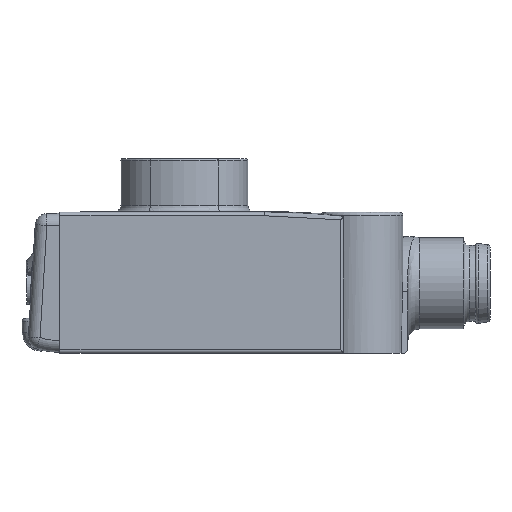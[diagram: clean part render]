
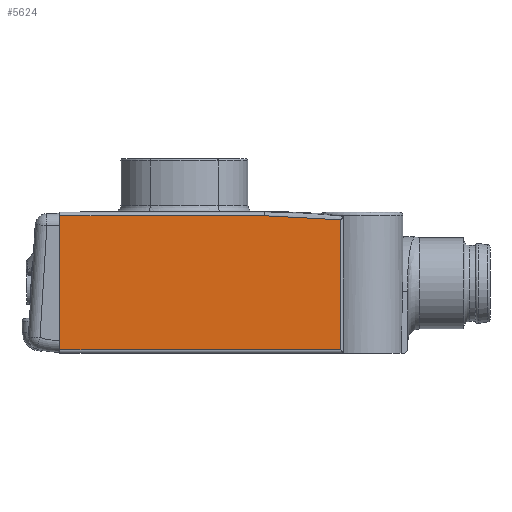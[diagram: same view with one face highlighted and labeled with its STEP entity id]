
A CAD part, left-side view. The second image highlights one B-rep face of the part: STEP entity #5624.
In plain terms, the highlighted planar face has unit normal (-1, 0, 0).
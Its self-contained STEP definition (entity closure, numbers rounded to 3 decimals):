
#1301=CARTESIAN_POINT('',(-8.04,1.779,11.45));
#1302=VERTEX_POINT('',#1301);
#1331=CARTESIAN_POINT('',(-8.04,8.33,11.8));
#1332=VERTEX_POINT('',#1331);
#1340=CARTESIAN_POINT('',(-8.04,8.33,11.8));
#1341=CARTESIAN_POINT('',(-8.04,6.142,11.8));
#1342=CARTESIAN_POINT('',(-8.04,3.953,11.691));
#1343=CARTESIAN_POINT('',(-8.04,1.779,11.45));
#1344=B_SPLINE_CURVE_WITH_KNOTS('',3,(#1340,#1341,#1342,#1343),.UNSPECIFIED.,.F.,.U.,(4,4),(1.783,2.44),.UNSPECIFIED.);
#1345=EDGE_CURVE('',#1332,#1302,#1344,.T.);
#1364=CARTESIAN_POINT('',(-8.04,25.85,11.8));
#1365=VERTEX_POINT('',#1364);
#1373=CARTESIAN_POINT('',(-8.04,25.85,11.8));
#1374=DIRECTION('',(0.0,-1.0,0.0));
#1375=VECTOR('',#1374,17.52);
#1376=LINE('',#1373,#1375);
#1377=EDGE_CURVE('',#1365,#1332,#1376,.T.);
#1744=CARTESIAN_POINT('',(-8.04,25.85,0.3));
#1745=VERTEX_POINT('',#1744);
#1753=CARTESIAN_POINT('',(-8.04,25.85,0.3));
#1754=DIRECTION('',(0.0,0.0,1.0));
#1755=VECTOR('',#1754,11.5);
#1756=LINE('',#1753,#1755);
#1757=EDGE_CURVE('',#1745,#1365,#1756,.T.);
#1913=CARTESIAN_POINT('',(-8.04,1.779,0.3));
#1914=VERTEX_POINT('',#1913);
#1928=CARTESIAN_POINT('',(-8.04,1.779,0.3));
#1929=DIRECTION('',(0.0,1.0,0.0));
#1930=VECTOR('',#1929,24.071);
#1931=LINE('',#1928,#1930);
#1932=EDGE_CURVE('',#1914,#1745,#1931,.T.);
#5599=CARTESIAN_POINT('',(-8.04,1.779,11.45));
#5600=DIRECTION('',(0.0,0.0,-1.0));
#5601=VECTOR('',#5600,11.15);
#5602=LINE('',#5599,#5601);
#5603=EDGE_CURVE('',#1302,#1914,#5602,.T.);
#5612=CARTESIAN_POINT('',(-8.04,0.593,0.0));
#5613=DIRECTION('',(-1.0,0.0,0.0));
#5614=DIRECTION('',(0.0,0.0,1.0));
#5615=AXIS2_PLACEMENT_3D('',#5612,#5613,#5614);
#5616=PLANE('',#5615);
#5617=ORIENTED_EDGE('',*,*,#1345,.F.);
#5618=ORIENTED_EDGE('',*,*,#1377,.F.);
#5619=ORIENTED_EDGE('',*,*,#1757,.F.);
#5620=ORIENTED_EDGE('',*,*,#1932,.F.);
#5621=ORIENTED_EDGE('',*,*,#5603,.F.);
#5622=EDGE_LOOP('',(#5617,#5618,#5619,#5620,#5621));
#5623=FACE_OUTER_BOUND('',#5622,.T.);
#5624=ADVANCED_FACE('',(#5623),#5616,.T.);
